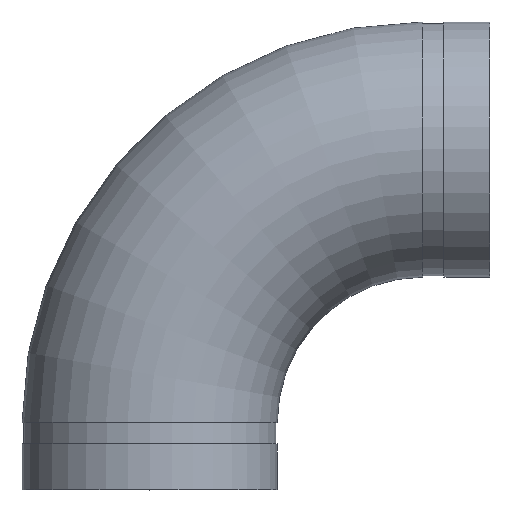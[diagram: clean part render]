
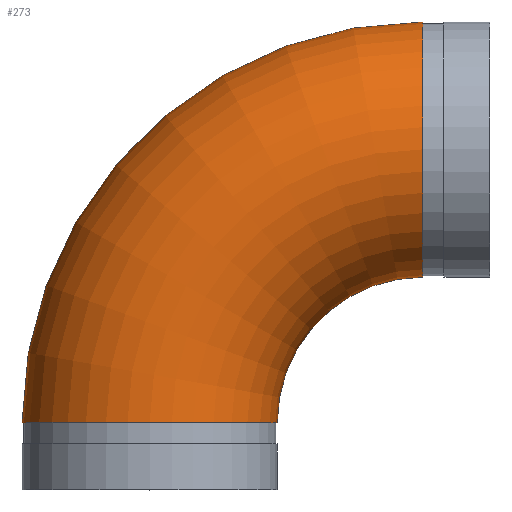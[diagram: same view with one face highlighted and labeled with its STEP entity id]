
A CAD part, top view. The second image highlights one B-rep face of the part: STEP entity #273.
In plain terms, the highlighted toroidal (fillet/blend) face has major radius 122.301 mm and minor radius 57.15 mm.
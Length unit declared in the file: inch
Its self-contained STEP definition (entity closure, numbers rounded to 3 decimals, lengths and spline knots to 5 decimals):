
#46=TOROIDAL_SURFACE('',#329,4.815,2.25);
#81=FACE_OUTER_BOUND('',#99,.T.);
#99=EDGE_LOOP('',(#227,#228,#229,#230,#231,#232));
#105=CIRCLE('',#298,2.25);
#106=CIRCLE('',#299,2.25);
#117=CIRCLE('',#315,2.25);
#118=CIRCLE('',#316,2.25);
#127=CIRCLE('',#330,2.565);
#129=VERTEX_POINT('',#460);
#130=VERTEX_POINT('',#461);
#141=VERTEX_POINT('',#491);
#142=VERTEX_POINT('',#492);
#151=EDGE_CURVE('',#129,#130,#105,.T.);
#152=EDGE_CURVE('',#130,#129,#106,.T.);
#165=EDGE_CURVE('',#141,#142,#117,.T.);
#166=EDGE_CURVE('',#142,#141,#118,.T.);
#178=EDGE_CURVE('',#142,#130,#127,.T.);
#227=ORIENTED_EDGE('',*,*,#165,.F.);
#228=ORIENTED_EDGE('',*,*,#166,.F.);
#229=ORIENTED_EDGE('',*,*,#178,.T.);
#230=ORIENTED_EDGE('',*,*,#152,.T.);
#231=ORIENTED_EDGE('',*,*,#151,.T.);
#232=ORIENTED_EDGE('',*,*,#178,.F.);
#273=ADVANCED_FACE('',(#81),#46,.T.);
#298=AXIS2_PLACEMENT_3D('',#462,#352,#353);
#299=AXIS2_PLACEMENT_3D('',#463,#354,#355);
#315=AXIS2_PLACEMENT_3D('',#493,#388,#389);
#316=AXIS2_PLACEMENT_3D('',#494,#390,#391);
#329=AXIS2_PLACEMENT_3D('',#517,#419,#420);
#330=AXIS2_PLACEMENT_3D('',#518,#421,#422);
#352=DIRECTION('center_axis',(-1.,0.,0.));
#353=DIRECTION('ref_axis',(0.,-1.,0.));
#354=DIRECTION('center_axis',(-1.,0.,0.));
#355=DIRECTION('ref_axis',(0.,-1.,0.));
#388=DIRECTION('center_axis',(0.,-1.,0.));
#389=DIRECTION('ref_axis',(1.,0.,0.));
#390=DIRECTION('center_axis',(0.,-1.,0.));
#391=DIRECTION('ref_axis',(1.,0.,0.));
#419=DIRECTION('center_axis',(0.,0.,1.));
#420=DIRECTION('ref_axis',(1.,0.,0.));
#421=DIRECTION('center_axis',(0.,0.,-1.));
#422=DIRECTION('ref_axis',(1.,0.,0.));
#460=CARTESIAN_POINT('',(4.815,8.25,0.));
#461=CARTESIAN_POINT('',(4.815,3.75,0.));
#462=CARTESIAN_POINT('Origin',(4.815,6.,0.));
#463=CARTESIAN_POINT('Origin',(4.815,6.,0.));
#491=CARTESIAN_POINT('',(-2.25,1.185,0.));
#492=CARTESIAN_POINT('',(2.25,1.185,0.));
#493=CARTESIAN_POINT('Origin',(0.,1.185,0.));
#494=CARTESIAN_POINT('Origin',(0.,1.185,0.));
#517=CARTESIAN_POINT('Origin',(4.815,1.185,0.));
#518=CARTESIAN_POINT('Origin',(4.815,1.185,0.));
